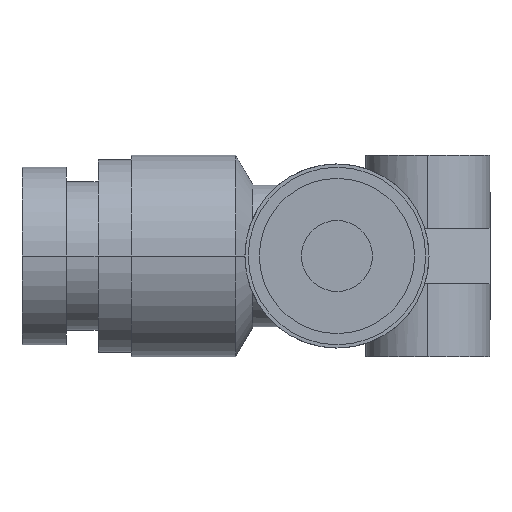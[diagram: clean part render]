
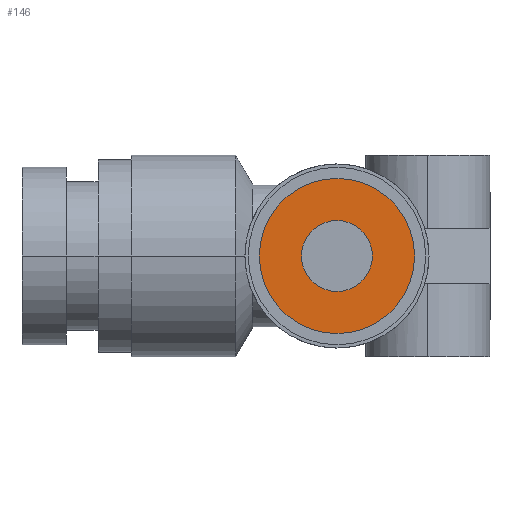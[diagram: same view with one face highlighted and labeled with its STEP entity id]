
A CAD part, left-side view. The second image highlights one B-rep face of the part: STEP entity #146.
In plain terms, the highlighted planar face has unit normal (-1, 0, 0).
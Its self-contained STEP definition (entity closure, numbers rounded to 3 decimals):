
#146 = ADVANCED_FACE( '', ( #303, #304 ), #305, .T. );
#303 = FACE_BOUND( '', #461, .T. );
#304 = FACE_OUTER_BOUND( '', #462, .T. );
#305 = PLANE( '', #463 );
#461 = EDGE_LOOP( '', ( #997, #998 ) );
#462 = EDGE_LOOP( '', ( #999, #1000 ) );
#463 = AXIS2_PLACEMENT_3D( '', #1001, #1002, #1003 );
#997 = ORIENTED_EDGE( '', *, *, #1105, .T. );
#998 = ORIENTED_EDGE( '', *, *, #1095, .T. );
#999 = ORIENTED_EDGE( '', *, *, #1007, .T. );
#1000 = ORIENTED_EDGE( '', *, *, #1165, .T. );
#1001 = CARTESIAN_POINT( '', ( -14.1, 1.75, 0. ) );
#1002 = DIRECTION( '', ( -1., 0., 0. ) );
#1003 = DIRECTION( '', ( 0., 1., 0. ) );
#1007 = EDGE_CURVE( '', #1167, #1171, #1173, .T. );
#1095 = EDGE_CURVE( '', #1341, #1338, #1342, .T. );
#1105 = EDGE_CURVE( '', #1338, #1341, #1357, .T. );
#1165 = EDGE_CURVE( '', #1171, #1167, #1431, .T. );
#1167 = VERTEX_POINT( '', #1433 );
#1171 = VERTEX_POINT( '', #1438 );
#1173 = CIRCLE( '', #1441, 3.5 );
#1338 = VERTEX_POINT( '', #1754 );
#1341 = VERTEX_POINT( '', #1758 );
#1342 = CIRCLE( '', #1759, 1.6 );
#1357 = CIRCLE( '', #1777, 1.6 );
#1431 = CIRCLE( '', #1972, 3.5 );
#1433 = CARTESIAN_POINT( '', ( -14.1, 3.5, 0. ) );
#1438 = CARTESIAN_POINT( '', ( -14.1, -3.5, 0. ) );
#1441 = AXIS2_PLACEMENT_3D( '', #1978, #1979, #1980 );
#1754 = CARTESIAN_POINT( '', ( -14.1, 1.6, 0. ) );
#1758 = CARTESIAN_POINT( '', ( -14.1, -1.6, 0. ) );
#1759 = AXIS2_PLACEMENT_3D( '', #2138, #2139, #2140 );
#1777 = AXIS2_PLACEMENT_3D( '', #2162, #2163, #2164 );
#1972 = AXIS2_PLACEMENT_3D( '', #2296, #2297, #2298 );
#1978 = CARTESIAN_POINT( '', ( -14.1, 0., 0. ) );
#1979 = DIRECTION( '', ( -1., 0., 0. ) );
#1980 = DIRECTION( '', ( 0., 1., 0. ) );
#2138 = CARTESIAN_POINT( '', ( -14.1, 0., 0. ) );
#2139 = DIRECTION( '', ( 1., 0., 0. ) );
#2140 = DIRECTION( '', ( 0., 1., 0. ) );
#2162 = CARTESIAN_POINT( '', ( -14.1, 0., 0. ) );
#2163 = DIRECTION( '', ( 1., 0., 0. ) );
#2164 = DIRECTION( '', ( 0., 1., 0. ) );
#2296 = CARTESIAN_POINT( '', ( -14.1, 0., 0. ) );
#2297 = DIRECTION( '', ( -1., 0., 0. ) );
#2298 = DIRECTION( '', ( 0., 1., 0. ) );
